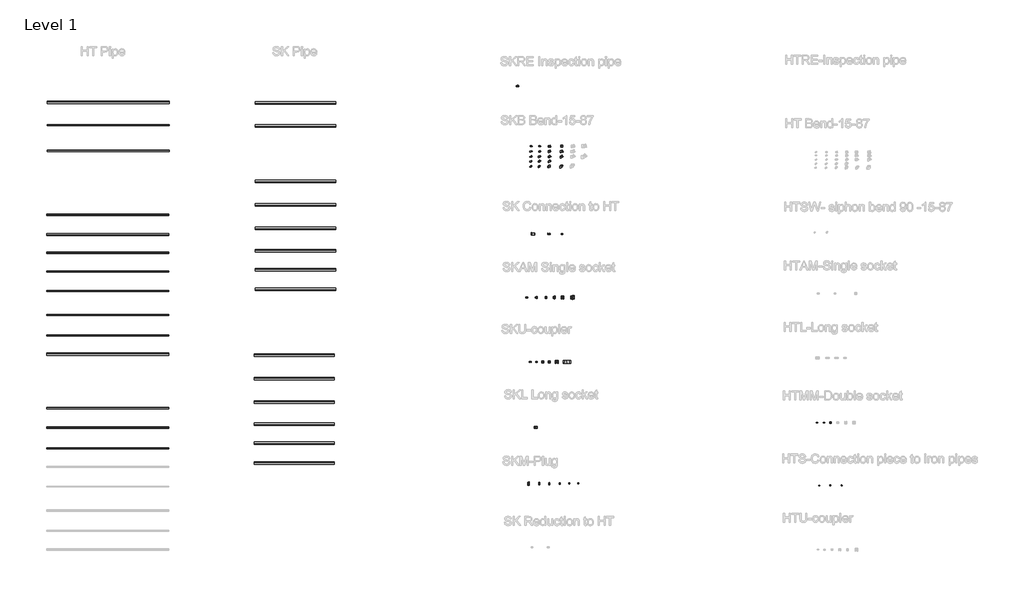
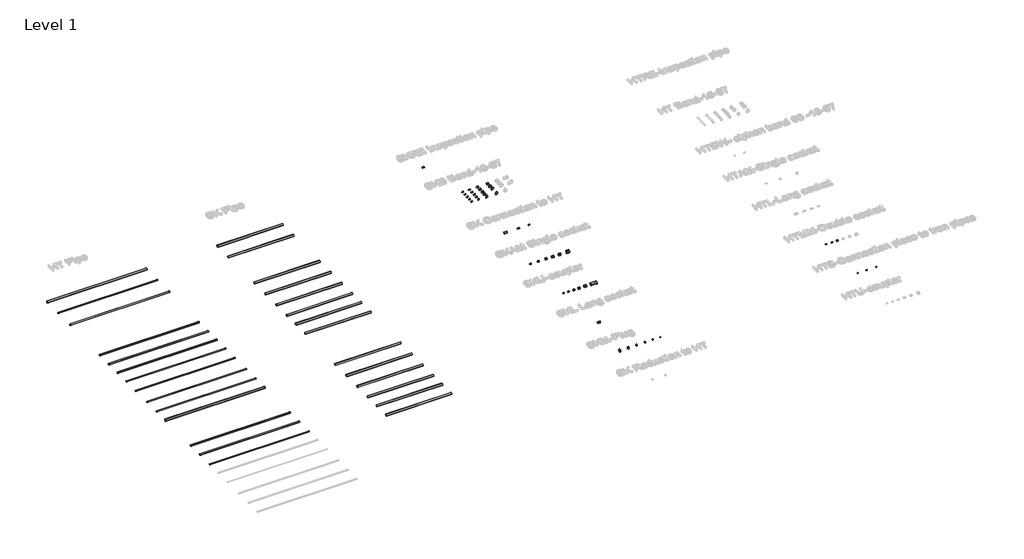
# One storey, part 2 of 29: 48 pipe fittings, 28 pipe segments.
"""IFC4 building model written with IfcOpenShell, lengths in millimetres."""

from ifc_helpers import new_model, si_unit, point, frame, frame_2d, origin, place, context, project, spatial, circle_curve, trimmed, segment, composite_curve, outline, extrude, transform, mapped, element, save
from components import pipe_fitting_97cefcbb, pipe_fitting_70d78208, pipe_fitting_3edb0472, pipe_fitting_0fadc552, pipe_fitting_c4610ebc, pipe_fitting_ba472d92, pipe_fitting_42c9a68a, pipe_fitting_5114909c, pipe_fitting_4f15ce90, pipe_fitting_d92faa6e, pipe_fitting_08ce48a5, pipe_fitting_f1652b02, pipe_fitting_9059359d, pipe_fitting_59a59377, pipe_fitting_3afc0ed2, pipe_fitting_7966021f, pipe_fitting_6bf98725, pipe_fitting_cee9e1e2, pipe_fitting_e52ff58d, pipe_fitting_2441ba4f, pipe_fitting_1ebebd56, pipe_fitting_a1ca4762, pipe_fitting_9b191db9, pipe_fitting_8de20daa, pipe_fitting_c5eb8bb2, pipe_fitting_2e757afb, pipe_fitting_46e309c2, pipe_fitting_6b5410aa, pipe_fitting_61a439ca, pipe_fitting_ea96c309, pipe_fitting_8957d1a8, pipe_fitting_1f33a7f4, pipe_fitting_3a01ebc7, pipe_fitting_8f561408, pipe_fitting_47bf5896, pipe_fitting_b53d4325, pipe_fitting_df833f15, pipe_fitting_8be27fc2, pipe_fitting_11ed9a3a, pipe_fitting_a771f2ab, pipe_fitting_0ddfdf04, pipe_fitting_d605dde8, pipe_fitting_faac6aaf, pipe_fitting_c86cb57a, pipe_fitting_fe7fcd8f, pipe_fitting_bae9c459, pipe_fitting_78887751, pipe_fitting_77622ff3

model = new_model("IFC4")

# Units and contexts
model_context = context("Model", 3, world=origin())
ifc_project = project(units=[si_unit("LENGTHUNIT", "METRE", prefix="MILLI")], contexts=[model_context])

# Site, building, storey
site = spatial("IfcSite", under=ifc_project)
building = spatial("IfcBuilding", under=site)
storey = spatial("IfcBuildingStorey", under=building, Name="Level 1", Elevation=0.0)

# Pipe fittings
placement = place(None, origin())
pipe_fitting_shape = pipe_fitting_97cefcbb(model_context)
element("IfcPipeFitting", 1, ObjectType="Superdrain SKL Long socket : Superdrain SKL Long socket", at=placement, inside=storey, context=model_context, shape_type="MappedRepresentation", body=[
    mapped(pipe_fitting_shape, transform((-2200.8096572, 5800.5406959, 0.0), x_axis=(1.0, 0.0, 0.0), y_axis=(0.0, 1.0, 0.0), z_axis=(0.0, 0.0, 1.0))),
])
pipe_fitting_2_shape = pipe_fitting_70d78208(model_context)
element("IfcPipeFitting", 2, ObjectType="Superdrain HTS-Connection piece to iron pipes : Superdrain HTS-Connection piece to iron pipes", at=placement, inside=storey, context=model_context, shape_type="MappedRepresentation", body=[
    mapped(pipe_fitting_2_shape, transform((17541.8986659, 1889.652324, 0.0), x_axis=(1.0, 0.0, 0.0), y_axis=(0.0, 1.0, 0.0), z_axis=(0.0, 0.0, 1.0))),
])
pipe_fitting_3_shape = pipe_fitting_3edb0472(model_context)
element("IfcPipeFitting", 3, ObjectType="Superdrain SK Connection to HT : Superdrain SK Connection to HT", at=placement, inside=storey, context=model_context, shape_type="MappedRepresentation", body=[
    mapped(pipe_fitting_3_shape, transform((-2399.8776508, 18813.449058, 0.0), x_axis=(1.0, 0.0, 0.0), y_axis=(0.0, 1.0, 0.0), z_axis=(0.0, 0.0, 1.0))),
])
pipe_fitting_4_shape = pipe_fitting_0fadc552(model_context)
element("IfcPipeFitting", 4, ObjectType="Superdrain SKRE Inspection pipe : Superdrain SKRE Inspection pipe _56", at=placement, inside=storey, context=model_context, shape_type="MappedRepresentation", body=[
    mapped(pipe_fitting_4_shape, transform((-3456.4739237, 28758.5634475, 0.0), x_axis=(1.0, 0.0, 0.0), y_axis=(0.0, 1.0, 0.0), z_axis=(0.0, 0.0, 1.0))),
])
pipe_fitting_5_shape = pipe_fitting_c4610ebc(model_context)
element("IfcPipeFitting", 5, ObjectType="Superdrain SKB Bend : Superdrain SKB Bend", at=placement, inside=storey, context=model_context, shape_type="MappedRepresentation", body=[
    mapped(pipe_fitting_5_shape, transform((-2551.9116196, 24709.074399, 0.0), x_axis=(1.0, 0.0, 0.0), y_axis=(0.0, 1.0, 0.0), z_axis=(0.0, 0.0, 1.0))),
])
pipe_fitting_6_shape = pipe_fitting_ba472d92(model_context)
element("IfcPipeFitting", 6, ObjectType="Superdrain SKB Bend : Superdrain SKB Bend", at=placement, inside=storey, context=model_context, shape_type="MappedRepresentation", body=[
    mapped(pipe_fitting_6_shape, transform((-1985.9920519, 24709.074399, 0.0), x_axis=(1.0, 0.0, 0.0), y_axis=(0.0, 1.0, 0.0), z_axis=(0.0, 0.0, 1.0))),
])
pipe_fitting_7_shape = pipe_fitting_42c9a68a(model_context)
element("IfcPipeFitting", 7, ObjectType="Superdrain SKB Bend : Superdrain SKB Bend", at=placement, inside=storey, context=model_context, shape_type="MappedRepresentation", body=[
    mapped(pipe_fitting_7_shape, transform((-2551.9116196, 24352.4698153, 0.0), x_axis=(1.0, 0.0, 0.0), y_axis=(0.0, 1.0, 0.0), z_axis=(0.0, 0.0, 1.0))),
])
pipe_fitting_8_shape = pipe_fitting_5114909c(model_context)
element("IfcPipeFitting", 8, ObjectType="Superdrain SKB Bend : Superdrain SKB Bend", at=placement, inside=storey, context=model_context, shape_type="MappedRepresentation", body=[
    mapped(pipe_fitting_8_shape, transform((-1985.9920519, 24352.4698153, 0.0), x_axis=(1.0, 0.0, 0.0), y_axis=(0.0, 1.0, 0.0), z_axis=(0.0, 0.0, 1.0))),
])
pipe_fitting_9_shape = pipe_fitting_4f15ce90(model_context)
element("IfcPipeFitting", 9, ObjectType="Superdrain SKB Bend : Superdrain SKB Bend", at=placement, inside=storey, context=model_context, shape_type="MappedRepresentation", body=[
    mapped(pipe_fitting_9_shape, transform((-2551.9116196, 23995.8652317, 0.0), x_axis=(1.0, 0.0, 0.0), y_axis=(0.0, 1.0, 0.0), z_axis=(0.0, 0.0, 1.0))),
])
pipe_fitting_10_shape = pipe_fitting_d92faa6e(model_context)
element("IfcPipeFitting", 10, ObjectType="Superdrain SKB Bend : Superdrain SKB Bend", at=placement, inside=storey, context=model_context, shape_type="MappedRepresentation", body=[
    mapped(pipe_fitting_10_shape, transform((-1985.9920519, 23995.8652317, 0.0), x_axis=(1.0, 0.0, 0.0), y_axis=(0.0, 1.0, 0.0), z_axis=(0.0, 0.0, 1.0))),
])
pipe_fitting_11_shape = pipe_fitting_08ce48a5(model_context)
element("IfcPipeFitting", 11, ObjectType="Superdrain SKB Bend : Superdrain SKB Bend", at=placement, inside=storey, context=model_context, shape_type="MappedRepresentation", body=[
    mapped(pipe_fitting_11_shape, transform((-2551.9116196, 23669.685075, 0.0), x_axis=(1.0, 0.0, 0.0), y_axis=(0.0, 1.0, 0.0), z_axis=(0.0, 0.0, 1.0))),
])
pipe_fitting_12_shape = pipe_fitting_f1652b02(model_context)
element("IfcPipeFitting", 12, ObjectType="Superdrain SKB Bend : Superdrain SKB Bend", at=placement, inside=storey, context=model_context, shape_type="MappedRepresentation", body=[
    mapped(pipe_fitting_12_shape, transform((-1985.9920519, 23669.685075, 0.0), x_axis=(1.0, 0.0, 0.0), y_axis=(0.0, 1.0, 0.0), z_axis=(0.0, 0.0, 1.0))),
])
pipe_fitting_13_shape = pipe_fitting_9059359d(model_context)
element("IfcPipeFitting", 13, ObjectType="Superdrain SKB Bend : Superdrain SKB Bend", at=placement, inside=storey, context=model_context, shape_type="MappedRepresentation", body=[
    mapped(pipe_fitting_13_shape, transform((-2551.9116196, 23322.0453883, 0.0), x_axis=(1.0, 0.0, 0.0), y_axis=(0.0, 1.0, 0.0), z_axis=(0.0, 0.0, 1.0))),
])
pipe_fitting_14_shape = pipe_fitting_59a59377(model_context)
element("IfcPipeFitting", 14, ObjectType="Superdrain SKB Bend : Superdrain SKB Bend", at=placement, inside=storey, context=model_context, shape_type="MappedRepresentation", body=[
    mapped(pipe_fitting_14_shape, transform((-1985.9920519, 23322.0453883, 0.0), x_axis=(1.0, 0.0, 0.0), y_axis=(0.0, 1.0, 0.0), z_axis=(0.0, 0.0, 1.0))),
])
pipe_fitting_15_shape = pipe_fitting_3afc0ed2(model_context)
element("IfcPipeFitting", 15, ObjectType="Superdrain SKB Bend : Superdrain SKB Bend", at=placement, inside=storey, context=model_context, shape_type="MappedRepresentation", body=[
    mapped(pipe_fitting_15_shape, transform((-1314.8706809, 24709.074399, 0.0), x_axis=(1.0, 0.0, 0.0), y_axis=(0.0, 1.0, 0.0), z_axis=(0.0, 0.0, 1.0))),
])
pipe_fitting_16_shape = pipe_fitting_7966021f(model_context)
element("IfcPipeFitting", 16, ObjectType="Superdrain SKB Bend : Superdrain SKB Bend", at=placement, inside=storey, context=model_context, shape_type="MappedRepresentation", body=[
    mapped(pipe_fitting_16_shape, transform((-1314.8706809, 24352.4698153, 0.0), x_axis=(1.0, 0.0, 0.0), y_axis=(0.0, 1.0, 0.0), z_axis=(0.0, 0.0, 1.0))),
])
pipe_fitting_17_shape = pipe_fitting_6bf98725(model_context)
element("IfcPipeFitting", 17, ObjectType="Superdrain SKB Bend : Superdrain SKB Bend", at=placement, inside=storey, context=model_context, shape_type="MappedRepresentation", body=[
    mapped(pipe_fitting_17_shape, transform((-1314.8706809, 23995.8652317, 0.0), x_axis=(1.0, 0.0, 0.0), y_axis=(0.0, 1.0, 0.0), z_axis=(0.0, 0.0, 1.0))),
])
pipe_fitting_18_shape = pipe_fitting_cee9e1e2(model_context)
element("IfcPipeFitting", 18, ObjectType="Superdrain SKB Bend : Superdrain SKB Bend", at=placement, inside=storey, context=model_context, shape_type="MappedRepresentation", body=[
    mapped(pipe_fitting_18_shape, transform((-1314.8706809, 23669.685075, 0.0), x_axis=(1.0, 0.0, 0.0), y_axis=(0.0, 1.0, 0.0), z_axis=(0.0, 0.0, 1.0))),
])
pipe_fitting_19_shape = pipe_fitting_e52ff58d(model_context)
element("IfcPipeFitting", 19, ObjectType="Superdrain SKB Bend : Superdrain SKB Bend", at=placement, inside=storey, context=model_context, shape_type="MappedRepresentation", body=[
    mapped(pipe_fitting_19_shape, transform((-1314.8706809, 23322.0453883, 0.0), x_axis=(1.0, 0.0, 0.0), y_axis=(0.0, 1.0, 0.0), z_axis=(0.0, 0.0, 1.0))),
])
pipe_fitting_20_shape = pipe_fitting_2441ba4f(model_context)
element("IfcPipeFitting", 20, ObjectType="Superdrain SKB Bend : Superdrain SKB Bend", at=placement, inside=storey, context=model_context, shape_type="MappedRepresentation", body=[
    mapped(pipe_fitting_20_shape, transform((-500.6322662, 24709.074399, 0.0), x_axis=(1.0, 0.0, 0.0), y_axis=(0.0, 1.0, 0.0), z_axis=(0.0, 0.0, 1.0))),
])
pipe_fitting_21_shape = pipe_fitting_1ebebd56(model_context)
element("IfcPipeFitting", 21, ObjectType="Superdrain SKB Bend : Superdrain SKB Bend", at=placement, inside=storey, context=model_context, shape_type="MappedRepresentation", body=[
    mapped(pipe_fitting_21_shape, transform((-500.6322662, 24352.4698153, 0.0), x_axis=(1.0, 0.0, 0.0), y_axis=(0.0, 1.0, 0.0), z_axis=(0.0, 0.0, 1.0))),
])
pipe_fitting_22_shape = pipe_fitting_a1ca4762(model_context)
element("IfcPipeFitting", 22, ObjectType="Superdrain SKB Bend : Superdrain SKB Bend", at=placement, inside=storey, context=model_context, shape_type="MappedRepresentation", body=[
    mapped(pipe_fitting_22_shape, transform((-500.6322662, 23995.8652317, 0.0), x_axis=(1.0, 0.0, 0.0), y_axis=(0.0, 1.0, 0.0), z_axis=(0.0, 0.0, 1.0))),
])
pipe_fitting_23_shape = pipe_fitting_9b191db9(model_context)
element("IfcPipeFitting", 23, ObjectType="Superdrain SKB Bend : Superdrain SKB Bend", at=placement, inside=storey, context=model_context, shape_type="MappedRepresentation", body=[
    mapped(pipe_fitting_23_shape, transform((-500.6322662, 23322.0453883, 0.0), x_axis=(1.0, 0.0, 0.0), y_axis=(0.0, 1.0, 0.0), z_axis=(0.0, 0.0, 1.0))),
])
pipe_fitting_24_shape = pipe_fitting_8de20daa(model_context)
element("IfcPipeFitting", 24, ObjectType="Superdrain SKAM Single socket : Superdrain SKAM Single socket", at=placement, inside=storey, context=model_context, shape_type="MappedRepresentation", body=[
    mapped(pipe_fitting_24_shape, transform((-2840.6757122, 14536.7917274, 0.0), x_axis=(1.0, 0.0, 0.0), y_axis=(0.0, 1.0, 0.0), z_axis=(0.0, 0.0, 1.0))),
])
pipe_fitting_25_shape = pipe_fitting_c5eb8bb2(model_context)
element("IfcPipeFitting", 25, ObjectType="Superdrain SKAM Single socket : Superdrain SKAM Single socket", at=placement, inside=storey, context=model_context, shape_type="MappedRepresentation", body=[
    mapped(pipe_fitting_25_shape, transform((-2203.2227387, 14536.7917274, 0.0), x_axis=(1.0, 0.0, 0.0), y_axis=(0.0, 1.0, 0.0), z_axis=(0.0, 0.0, 1.0))),
])
pipe_fitting_26_shape = pipe_fitting_2e757afb(model_context)
element("IfcPipeFitting", 26, ObjectType="Superdrain SKAM Single socket : Superdrain SKAM Single socket", at=placement, inside=storey, context=model_context, shape_type="MappedRepresentation", body=[
    mapped(pipe_fitting_26_shape, transform((-1549.1436808, 14536.7917274, 0.0), x_axis=(1.0, 0.0, 0.0), y_axis=(0.0, 1.0, 0.0), z_axis=(0.0, 0.0, 1.0))),
])
pipe_fitting_27_shape = pipe_fitting_46e309c2(model_context)
element("IfcPipeFitting", 27, ObjectType="Superdrain SKAM Single socket : Superdrain SKAM Single socket", at=placement, inside=storey, context=model_context, shape_type="MappedRepresentation", body=[
    mapped(pipe_fitting_27_shape, transform((-1008.5205916, 14536.7917274, 0.0), x_axis=(1.0, 0.0, 0.0), y_axis=(0.0, 1.0, 0.0), z_axis=(0.0, 0.0, 1.0))),
])
pipe_fitting_28_shape = pipe_fitting_6b5410aa(model_context)
element("IfcPipeFitting", 28, ObjectType="Superdrain SKAM Single socket : Superdrain SKAM Single socket", at=placement, inside=storey, context=model_context, shape_type="MappedRepresentation", body=[
    mapped(pipe_fitting_28_shape, transform((-450.6435741, 14536.7917274, 0.0), x_axis=(1.0, 0.0, 0.0), y_axis=(0.0, 1.0, 0.0), z_axis=(0.0, 0.0, 1.0))),
])
pipe_fitting_29_shape = pipe_fitting_61a439ca(model_context)
element("IfcPipeFitting", 29, ObjectType="Superdrain SKAM Single socket : Superdrain SKAM Single socket", at=placement, inside=storey, context=model_context, shape_type="MappedRepresentation", body=[
    mapped(pipe_fitting_29_shape, transform((241.9276732, 14536.7917274, 0.0), x_axis=(1.0, 0.0, 0.0), y_axis=(0.0, 1.0, 0.0), z_axis=(0.0, 0.0, 1.0))),
])
pipe_fitting_30_shape = pipe_fitting_ea96c309(model_context)
element("IfcPipeFitting", 30, ObjectType="Superdrain SKU-coupler : Superdrain SKU-coupler", at=placement, inside=storey, context=model_context, shape_type="MappedRepresentation", body=[
    mapped(pipe_fitting_30_shape, transform((-2606.7563139, 10215.3851194, 0.0), x_axis=(1.0, 0.0, 0.0), y_axis=(0.0, 1.0, 0.0), z_axis=(0.0, 0.0, 1.0))),
])
pipe_fitting_31_shape = pipe_fitting_8957d1a8(model_context)
element("IfcPipeFitting", 31, ObjectType="Superdrain SKU-coupler : Superdrain SKU-coupler", at=placement, inside=storey, context=model_context, shape_type="MappedRepresentation", body=[
    mapped(pipe_fitting_31_shape, transform((-141.6705568, 10201.2429838, 0.0), x_axis=(1.0, 0.0, 0.0), y_axis=(0.0, 1.0, 0.0), z_axis=(0.0, 0.0, 1.0))),
])
pipe_fitting_32_shape = pipe_fitting_1f33a7f4(model_context)
element("IfcPipeFitting", 32, ObjectType="Superdrain SKU-coupler : Superdrain SKU-coupler", at=placement, inside=storey, context=model_context, shape_type="MappedRepresentation", body=[
    mapped(pipe_fitting_32_shape, transform((-827.7185867, 10201.2429838, 0.0), x_axis=(1.0, 0.0, 0.0), y_axis=(0.0, 1.0, 0.0), z_axis=(0.0, 0.0, 1.0))),
])
pipe_fitting_33_shape = pipe_fitting_3a01ebc7(model_context)
element("IfcPipeFitting", 33, ObjectType="Superdrain SKU-coupler : Superdrain SKU-coupler", at=placement, inside=storey, context=model_context, shape_type="MappedRepresentation", body=[
    mapped(pipe_fitting_33_shape, transform((-1338.128374, 10201.2429838, 0.0), x_axis=(1.0, 0.0, 0.0), y_axis=(0.0, 1.0, 0.0), z_axis=(0.0, 0.0, 1.0))),
])
pipe_fitting_34_shape = pipe_fitting_8f561408(model_context)
element("IfcPipeFitting", 34, ObjectType="Superdrain SKU-coupler : Superdrain SKU-coupler", at=placement, inside=storey, context=model_context, shape_type="MappedRepresentation", body=[
    mapped(pipe_fitting_34_shape, transform((-1765.0041113, 10201.2429838, 0.0), x_axis=(1.0, 0.0, 0.0), y_axis=(0.0, 1.0, 0.0), z_axis=(0.0, 0.0, 1.0))),
])
pipe_fitting_35_shape = pipe_fitting_47bf5896(model_context)
element("IfcPipeFitting", 35, ObjectType="Superdrain SKU-coupler : Superdrain SKU-coupler", at=placement, inside=storey, context=model_context, shape_type="MappedRepresentation", body=[
    mapped(pipe_fitting_35_shape, transform((-2200.8984495, 10201.2429838, 0.0), x_axis=(1.0, 0.0, 0.0), y_axis=(0.0, 1.0, 0.0), z_axis=(0.0, 0.0, 1.0))),
])
pipe_fitting_36_shape = pipe_fitting_b53d4325(model_context)
element("IfcPipeFitting", 36, ObjectType="Superdrain HTMM-Double socket : Superdrain HTMM-Double socket", at=placement, inside=storey, context=model_context, shape_type="MappedRepresentation", body=[
    mapped(pipe_fitting_36_shape, transform((16659.8272116, 6113.6610392, 0.0), x_axis=(1.0, 0.0, 0.0), y_axis=(0.0, 1.0, 0.0), z_axis=(0.0, 0.0, 1.0))),
])
pipe_fitting_37_shape = pipe_fitting_df833f15(model_context)
element("IfcPipeFitting", 37, ObjectType="Superdrain HTMM-Double socket : Superdrain HTMM-Double socket", at=placement, inside=storey, context=model_context, shape_type="MappedRepresentation", body=[
    mapped(pipe_fitting_37_shape, transform((17580.8588953, 6113.6610392, 0.0), x_axis=(1.0, 0.0, 0.0), y_axis=(0.0, 1.0, 0.0), z_axis=(0.0, 0.0, 1.0))),
])
pipe_fitting_38_shape = pipe_fitting_8be27fc2(model_context)
element("IfcPipeFitting", 38, ObjectType="Superdrain SKM-Plug : Superdrain SKM-Plug", at=placement, inside=storey, context=model_context, shape_type="MappedRepresentation", body=[
    mapped(pipe_fitting_38_shape, transform((-2763.7633358, 2011.4975834, 0.0), x_axis=(1.0, 0.0, 0.0), y_axis=(0.0, 1.0, 0.0), z_axis=(0.0, 0.0, 1.0))),
])
pipe_fitting_39_shape = pipe_fitting_11ed9a3a(model_context)
element("IfcPipeFitting", 39, ObjectType="Superdrain SKM-Plug : Superdrain SKM-Plug", at=placement, inside=storey, context=model_context, shape_type="MappedRepresentation", body=[
    mapped(pipe_fitting_39_shape, transform((-2043.7633358, 2011.4975834, 0.0), x_axis=(1.0, 0.0, 0.0), y_axis=(0.0, 1.0, 0.0), z_axis=(0.0, 0.0, 1.0))),
])
pipe_fitting_40_shape = pipe_fitting_a771f2ab(model_context)
element("IfcPipeFitting", 40, ObjectType="Superdrain SKM-Plug : Superdrain SKM-Plug", at=placement, inside=storey, context=model_context, shape_type="MappedRepresentation", body=[
    mapped(pipe_fitting_40_shape, transform((-1363.7633358, 2011.4975834, 0.0), x_axis=(1.0, 0.0, 0.0), y_axis=(0.0, 1.0, 0.0), z_axis=(0.0, 0.0, 1.0))),
])
pipe_fitting_41_shape = pipe_fitting_0ddfdf04(model_context)
element("IfcPipeFitting", 41, ObjectType="Superdrain SKM-Plug : Superdrain SKM-Plug", at=placement, inside=storey, context=model_context, shape_type="MappedRepresentation", body=[
    mapped(pipe_fitting_41_shape, transform((-663.7633358, 2011.4975834, 0.0), x_axis=(1.0, 0.0, 0.0), y_axis=(0.0, 1.0, 0.0), z_axis=(0.0, 0.0, 1.0))),
])
pipe_fitting_42_shape = pipe_fitting_d605dde8(model_context)
element("IfcPipeFitting", 42, ObjectType="Superdrain SKM-Plug : Superdrain SKM-Plug", at=placement, inside=storey, context=model_context, shape_type="MappedRepresentation", body=[
    mapped(pipe_fitting_42_shape, transform((-21.3417547, 2025.2717365, 0.0), x_axis=(1.0, 0.0, 0.0), y_axis=(0.0, 1.0, 0.0), z_axis=(0.0, 0.0, 1.0))),
])
pipe_fitting_43_shape = pipe_fitting_faac6aaf(model_context)
element("IfcPipeFitting", 43, ObjectType="Superdrain SKM-Plug : Superdrain SKM-Plug", at=placement, inside=storey, context=model_context, shape_type="MappedRepresentation", body=[
    mapped(pipe_fitting_43_shape, transform((598.6582453, 2025.2717365, 0.0), x_axis=(1.0, 0.0, 0.0), y_axis=(0.0, 1.0, 0.0), z_axis=(0.0, 0.0, 1.0))),
])
pipe_fitting_44_shape = pipe_fitting_c86cb57a(model_context)
element("IfcPipeFitting", 44, ObjectType="Superdrain HTS-Connection piece to iron pipes : Superdrain HTS-Connection piece to iron pipes", at=placement, inside=storey, context=model_context, shape_type="MappedRepresentation", body=[
    mapped(pipe_fitting_44_shape, transform((16805.2864942, 1889.652324, 0.0), x_axis=(1.0, 0.0, 0.0), y_axis=(0.0, 1.0, 0.0), z_axis=(0.0, 0.0, 1.0))),
])
pipe_fitting_45_shape = pipe_fitting_fe7fcd8f(model_context)
element("IfcPipeFitting", 45, ObjectType="Superdrain HTS-Connection piece to iron pipes : Superdrain HTS-Connection piece to iron pipes", at=placement, inside=storey, context=model_context, shape_type="MappedRepresentation", body=[
    mapped(pipe_fitting_45_shape, transform((18326.5580023, 1889.652324, 0.0), x_axis=(1.0, 0.0, 0.0), y_axis=(0.0, 1.0, 0.0), z_axis=(0.0, 0.0, 1.0))),
])
pipe_fitting_46_shape = pipe_fitting_bae9c459(model_context)
element("IfcPipeFitting", 46, ObjectType="Superdrain SK Connection to HT : Superdrain SK Connection to HT", at=placement, inside=storey, context=model_context, shape_type="MappedRepresentation", body=[
    mapped(pipe_fitting_46_shape, transform((-1342.9922535, 18813.449058, 0.0), x_axis=(1.0, 0.0, 0.0), y_axis=(0.0, 1.0, 0.0), z_axis=(0.0, 0.0, 1.0))),
])
pipe_fitting_47_shape = pipe_fitting_78887751(model_context)
element("IfcPipeFitting", 47, ObjectType="Superdrain SK Connection to HT : Superdrain SK Connection to HT", at=placement, inside=storey, context=model_context, shape_type="MappedRepresentation", body=[
    mapped(pipe_fitting_47_shape, transform((-460.753982, 18813.449058, 0.0), x_axis=(1.0, 0.0, 0.0), y_axis=(0.0, 1.0, 0.0), z_axis=(0.0, 0.0, 1.0))),
])
pipe_fitting_48_shape = pipe_fitting_77622ff3(model_context)
element("IfcPipeFitting", 48, ObjectType="Superdrain HTMM-Double socket : Superdrain HTMM-Double socket", at=placement, inside=storey, context=model_context, shape_type="MappedRepresentation", body=[
    mapped(pipe_fitting_48_shape, transform((17140.8093691, 6113.6610392, 0.0), x_axis=(1.0, 0.0, 0.0), y_axis=(0.0, 1.0, 0.0), z_axis=(0.0, 0.0, 1.0))),
])

# Pipe segments
element("IfcPipeSegment", 49, ObjectType="Superdrain HT_ Double socket", at=placement, inside=storey, context=model_context, shape_type="SweptSolid", body=[
    extrude(outline(composite_curve([segment(trimmed(circle_curve(frame_2d((24401.0738305, 0.0)), 62.5), [point((24338.5738305, 0.0))], [point((24401.0738305, 62.5))], False, "CARTESIAN"), True, "CONTINUOUS"), segment(trimmed(circle_curve(frame_2d((24401.0738305, 0.0)), 62.5), [point((24401.0738305, 62.5))], [point((24463.5738305, 0.0))], False, "CARTESIAN"), True, "CONTINUOUS"), segment(trimmed(circle_curve(frame_2d((24401.0738305, 0.0)), 62.5), [point((24463.5738305, 0.0))], [point((24401.0738305, -62.5))], False, "CARTESIAN"), True, "CONTINUOUS"), segment(trimmed(circle_curve(frame_2d((24401.0738305, 0.0)), 62.5), [point((24401.0738305, -62.5))], [point((24338.5738305, 0.0))], False, "CARTESIAN"), True, "CONTINUOUS")], self_intersect=False)), frame((-35063.6570842, 0.0, 0.0), z_axis=(1.0, 0.0, 0.0), x_axis=(0.0, 1.0, 0.0)), (0.0, 0.0, 1.0), 8200.0),
])
element("IfcPipeSegment", 50, ObjectType="Superdrain HT_ Single socket", at=placement, inside=storey, context=model_context, shape_type="SweptSolid", body=[
    extrude(outline(composite_curve([segment(trimmed(circle_curve(frame_2d((26121.8702032, 0.0)), 37.5), [point((26084.3702032, 0.0))], [point((26121.8702032, 37.5))], False, "CARTESIAN"), True, "CONTINUOUS"), segment(trimmed(circle_curve(frame_2d((26121.8702032, 0.0)), 37.5), [point((26121.8702032, 37.5))], [point((26159.3702032, 0.0))], False, "CARTESIAN"), True, "CONTINUOUS"), segment(trimmed(circle_curve(frame_2d((26121.8702032, 0.0)), 37.5), [point((26159.3702032, 0.0))], [point((26121.8702032, -37.5))], False, "CARTESIAN"), True, "CONTINUOUS"), segment(trimmed(circle_curve(frame_2d((26121.8702032, 0.0)), 37.5), [point((26121.8702032, -37.5))], [point((26084.3702032, 0.0))], False, "CARTESIAN"), True, "CONTINUOUS")], self_intersect=False)), frame((-35063.6570842, 0.0, 0.0), z_axis=(1.0, 0.0, 0.0), x_axis=(0.0, 1.0, 0.0)), (0.0, 0.0, 1.0), 8200.0),
])
element("IfcPipeSegment", 51, ObjectType="Superdrain HT_ Plain ended", at=placement, inside=storey, context=model_context, shape_type="SweptSolid", body=[
    extrude(outline(composite_curve([segment(trimmed(circle_curve(frame_2d((27666.5108195, 0.0)), 80.0), [point((27586.5108195, 0.0))], [point((27666.5108195, 80.0))], False, "CARTESIAN"), True, "CONTINUOUS"), segment(trimmed(circle_curve(frame_2d((27666.5108195, 0.0)), 80.0), [point((27666.5108195, 80.0))], [point((27746.5108195, 0.0))], False, "CARTESIAN"), True, "CONTINUOUS"), segment(trimmed(circle_curve(frame_2d((27666.5108195, 0.0)), 80.0), [point((27746.5108195, 0.0))], [point((27666.5108195, -80.0))], False, "CARTESIAN"), True, "CONTINUOUS"), segment(trimmed(circle_curve(frame_2d((27666.5108195, 0.0)), 80.0), [point((27666.5108195, -80.0))], [point((27586.5108195, 0.0))], False, "CARTESIAN"), True, "CONTINUOUS")], self_intersect=False)), frame((-35063.6570842, 0.0, 0.0), z_axis=(1.0, 0.0, 0.0), x_axis=(0.0, 1.0, 0.0)), (0.0, 0.0, 1.0), 8200.0),
])
element("IfcPipeSegment", 52, ObjectType="Superdrain Single socket pipe HTEM - 150 mm", at=placement, inside=storey, context=model_context, shape_type="SweptSolid", body=[
    extrude(outline(composite_curve([segment(trimmed(circle_curve(frame_2d((20096.7811014, 0.0)), 55.0), [point((20041.7811014, 0.0))], [point((20096.7811014, 55.0))], False, "CARTESIAN"), True, "CONTINUOUS"), segment(trimmed(circle_curve(frame_2d((20096.7811014, 0.0)), 55.0), [point((20096.7811014, 55.0))], [point((20151.7811014, 0.0))], False, "CARTESIAN"), True, "CONTINUOUS"), segment(trimmed(circle_curve(frame_2d((20096.7811014, 0.0)), 55.0), [point((20151.7811014, 0.0))], [point((20096.7811014, -55.0))], False, "CARTESIAN"), True, "CONTINUOUS"), segment(trimmed(circle_curve(frame_2d((20096.7811014, 0.0)), 55.0), [point((20096.7811014, -55.0))], [point((20041.7811014, 0.0))], False, "CARTESIAN"), True, "CONTINUOUS")], self_intersect=False)), frame((-35123.6590069, 0.0, 0.0), z_axis=(1.0, 0.0, 0.0), x_axis=(0.0, 1.0, 0.0)), (0.0, 0.0, 1.0), 8200.0),
])
element("IfcPipeSegment", 53, ObjectType="Superdrain SK_Plain end pipe", at=placement, inside=storey, context=model_context, shape_type="SweptSolid", body=[
    extrude(outline(composite_curve([segment(trimmed(circle_curve(frame_2d((27620.0800705, 0.0)), 80.0), [point((27540.0800705, 0.0))], [point((27620.0800705, 80.0))], False, "CARTESIAN"), True, "CONTINUOUS"), segment(trimmed(circle_curve(frame_2d((27620.0800705, 0.0)), 80.0), [point((27620.0800705, 80.0))], [point((27700.0800705, 0.0))], False, "CARTESIAN"), True, "CONTINUOUS"), segment(trimmed(circle_curve(frame_2d((27620.0800705, 0.0)), 80.0), [point((27700.0800705, 0.0))], [point((27620.0800705, -80.0))], False, "CARTESIAN"), True, "CONTINUOUS"), segment(trimmed(circle_curve(frame_2d((27620.0800705, 0.0)), 80.0), [point((27620.0800705, -80.0))], [point((27540.0800705, 0.0))], False, "CARTESIAN"), True, "CONTINUOUS")], self_intersect=False)), frame((-21083.2945748, 0.0, 0.0), z_axis=(1.0, 0.0, 0.0), x_axis=(0.0, 1.0, 0.0)), (0.0, 0.0, 1.0), 5400.0),
])
element("IfcPipeSegment", 54, ObjectType="Superdrain SK_Single socket pipe", at=placement, inside=storey, context=model_context, shape_type="SweptSolid", body=[
    extrude(outline(composite_curve([segment(trimmed(circle_curve(frame_2d((26075.4394542, 0.0)), 80.0), [point((25995.4394542, 0.0))], [point((26075.4394542, 80.0))], False, "CARTESIAN"), True, "CONTINUOUS"), segment(trimmed(circle_curve(frame_2d((26075.4394542, 0.0)), 80.0), [point((26075.4394542, 80.0))], [point((26155.4394542, 0.0))], False, "CARTESIAN"), True, "CONTINUOUS"), segment(trimmed(circle_curve(frame_2d((26075.4394542, 0.0)), 80.0), [point((26155.4394542, 0.0))], [point((26075.4394542, -80.0))], False, "CARTESIAN"), True, "CONTINUOUS"), segment(trimmed(circle_curve(frame_2d((26075.4394542, 0.0)), 80.0), [point((26075.4394542, -80.0))], [point((25995.4394542, 0.0))], False, "CARTESIAN"), True, "CONTINUOUS")], self_intersect=False)), frame((-21083.2945748, 0.0, 0.0), z_axis=(1.0, 0.0, 0.0), x_axis=(0.0, 1.0, 0.0)), (0.0, 0.0, 1.0), 5400.0),
])
element("IfcPipeSegment", 55, ObjectType="Superdrain Plain ended pipe SK,150 mm", at=placement, inside=storey, context=model_context, shape_type="SweptSolid", body=[
    extrude(outline(composite_curve([segment(trimmed(circle_curve(frame_2d((22341.3586574, 0.0)), 80.0), [point((22261.3586574, 0.0))], [point((22341.3586574, 80.0))], False, "CARTESIAN"), True, "CONTINUOUS"), segment(trimmed(circle_curve(frame_2d((22341.3586574, 0.0)), 80.0), [point((22341.3586574, 80.0))], [point((22421.3586574, 0.0))], False, "CARTESIAN"), True, "CONTINUOUS"), segment(trimmed(circle_curve(frame_2d((22341.3586574, 0.0)), 80.0), [point((22421.3586574, 0.0))], [point((22341.3586574, -80.0))], False, "CARTESIAN"), True, "CONTINUOUS"), segment(trimmed(circle_curve(frame_2d((22341.3586574, 0.0)), 80.0), [point((22341.3586574, -80.0))], [point((22261.3586574, 0.0))], False, "CARTESIAN"), True, "CONTINUOUS")], self_intersect=False)), frame((-21083.2945748, 0.0, 0.0), z_axis=(1.0, 0.0, 0.0), x_axis=(0.0, 1.0, 0.0)), (0.0, 0.0, 1.0), 5400.0),
])
element("IfcPipeSegment", 56, ObjectType="Superdrain Plain ended pipe SK,250 mm", at=placement, inside=storey, context=model_context, shape_type="SweptSolid", body=[
    extrude(outline(composite_curve([segment(trimmed(circle_curve(frame_2d((20759.6142491, 0.0)), 80.0), [point((20679.6142491, 0.0))], [point((20759.6142491, 80.0))], False, "CARTESIAN"), True, "CONTINUOUS"), segment(trimmed(circle_curve(frame_2d((20759.6142491, 0.0)), 80.0), [point((20759.6142491, 80.0))], [point((20839.6142491, 0.0))], False, "CARTESIAN"), True, "CONTINUOUS"), segment(trimmed(circle_curve(frame_2d((20759.6142491, 0.0)), 80.0), [point((20839.6142491, 0.0))], [point((20759.6142491, -80.0))], False, "CARTESIAN"), True, "CONTINUOUS"), segment(trimmed(circle_curve(frame_2d((20759.6142491, 0.0)), 80.0), [point((20759.6142491, -80.0))], [point((20679.6142491, 0.0))], False, "CARTESIAN"), True, "CONTINUOUS")], self_intersect=False)), frame((-21083.2945748, 0.0, 0.0), z_axis=(1.0, 0.0, 0.0), x_axis=(0.0, 1.0, 0.0)), (0.0, 0.0, 1.0), 5400.0),
])
element("IfcPipeSegment", 57, ObjectType="Superdrain Plain ended pipe SK,500 mm", at=placement, inside=storey, context=model_context, shape_type="SweptSolid", body=[
    extrude(outline(composite_curve([segment(trimmed(circle_curve(frame_2d((19183.0433038, 0.0)), 80.0), [point((19103.0433038, 0.0))], [point((19183.0433038, 80.0))], False, "CARTESIAN"), True, "CONTINUOUS"), segment(trimmed(circle_curve(frame_2d((19183.0433038, 0.0)), 80.0), [point((19183.0433038, 80.0))], [point((19263.0433038, 0.0))], False, "CARTESIAN"), True, "CONTINUOUS"), segment(trimmed(circle_curve(frame_2d((19183.0433038, 0.0)), 80.0), [point((19263.0433038, 0.0))], [point((19183.0433038, -80.0))], False, "CARTESIAN"), True, "CONTINUOUS"), segment(trimmed(circle_curve(frame_2d((19183.0433038, 0.0)), 80.0), [point((19183.0433038, -80.0))], [point((19103.0433038, 0.0))], False, "CARTESIAN"), True, "CONTINUOUS")], self_intersect=False)), frame((-21083.2945748, 0.0, 0.0), z_axis=(1.0, 0.0, 0.0), x_axis=(0.0, 1.0, 0.0)), (0.0, 0.0, 1.0), 5400.0),
])
element("IfcPipeSegment", 58, ObjectType="Superdrain Plain ended pipe SK,1000 mm", at=placement, inside=storey, context=model_context, shape_type="SweptSolid", body=[
    extrude(outline(composite_curve([segment(trimmed(circle_curve(frame_2d((17689.3710231, 0.0)), 80.0), [point((17609.3710231, 0.0))], [point((17689.3710231, 80.0))], False, "CARTESIAN"), True, "CONTINUOUS"), segment(trimmed(circle_curve(frame_2d((17689.3710231, 0.0)), 80.0), [point((17689.3710231, 80.0))], [point((17769.3710231, 0.0))], False, "CARTESIAN"), True, "CONTINUOUS"), segment(trimmed(circle_curve(frame_2d((17689.3710231, 0.0)), 80.0), [point((17769.3710231, 0.0))], [point((17689.3710231, -80.0))], False, "CARTESIAN"), True, "CONTINUOUS"), segment(trimmed(circle_curve(frame_2d((17689.3710231, 0.0)), 80.0), [point((17689.3710231, -80.0))], [point((17609.3710231, 0.0))], False, "CARTESIAN"), True, "CONTINUOUS")], self_intersect=False)), frame((-21083.2945748, 0.0, 0.0), z_axis=(1.0, 0.0, 0.0), x_axis=(0.0, 1.0, 0.0)), (0.0, 0.0, 1.0), 5400.0),
])
element("IfcPipeSegment", 59, ObjectType="Superdrain Plain ended pipe SK,3000 mm", at=placement, inside=storey, context=model_context, shape_type="SweptSolid", body=[
    extrude(outline(composite_curve([segment(trimmed(circle_curve(frame_2d((15079.5079521, 0.0)), 80.0), [point((14999.5079521, 0.0))], [point((15079.5079521, 80.0))], False, "CARTESIAN"), True, "CONTINUOUS"), segment(trimmed(circle_curve(frame_2d((15079.5079521, 0.0)), 80.0), [point((15079.5079521, 80.0))], [point((15159.5079521, 0.0))], False, "CARTESIAN"), True, "CONTINUOUS"), segment(trimmed(circle_curve(frame_2d((15079.5079521, 0.0)), 80.0), [point((15159.5079521, 0.0))], [point((15079.5079521, -80.0))], False, "CARTESIAN"), True, "CONTINUOUS"), segment(trimmed(circle_curve(frame_2d((15079.5079521, 0.0)), 80.0), [point((15079.5079521, -80.0))], [point((14999.5079521, 0.0))], False, "CARTESIAN"), True, "CONTINUOUS")], self_intersect=False)), frame((-21083.2945748, 0.0, 0.0), z_axis=(1.0, 0.0, 0.0), x_axis=(0.0, 1.0, 0.0)), (0.0, 0.0, 1.0), 5400.0),
])
element("IfcPipeSegment", 60, ObjectType="Superdrain Plain ended pipe SK,2000 mm", at=placement, inside=storey, context=model_context, shape_type="SweptSolid", body=[
    extrude(outline(composite_curve([segment(trimmed(circle_curve(frame_2d((16412.7957389, 0.0)), 80.0), [point((16332.7957389, 0.0))], [point((16412.7957389, 80.0))], False, "CARTESIAN"), True, "CONTINUOUS"), segment(trimmed(circle_curve(frame_2d((16412.7957389, 0.0)), 80.0), [point((16412.7957389, 80.0))], [point((16492.7957389, 0.0))], False, "CARTESIAN"), True, "CONTINUOUS"), segment(trimmed(circle_curve(frame_2d((16412.7957389, 0.0)), 80.0), [point((16492.7957389, 0.0))], [point((16412.7957389, -80.0))], False, "CARTESIAN"), True, "CONTINUOUS"), segment(trimmed(circle_curve(frame_2d((16412.7957389, 0.0)), 80.0), [point((16412.7957389, -80.0))], [point((16332.7957389, 0.0))], False, "CARTESIAN"), True, "CONTINUOUS")], self_intersect=False)), frame((-21083.2945748, 0.0, 0.0), z_axis=(1.0, 0.0, 0.0), x_axis=(0.0, 1.0, 0.0)), (0.0, 0.0, 1.0), 5400.0),
])
element("IfcPipeSegment", 61, ObjectType="Superdrain Single socket pipe HTEM - 250 mm", at=placement, inside=storey, context=model_context, shape_type="SweptSolid", body=[
    extrude(outline(composite_curve([segment(trimmed(circle_curve(frame_2d((18774.6251323, 0.0)), 55.0), [point((18719.6251323, 0.0))], [point((18774.6251323, 55.0))], False, "CARTESIAN"), True, "CONTINUOUS"), segment(trimmed(circle_curve(frame_2d((18774.6251323, 0.0)), 55.0), [point((18774.6251323, 55.0))], [point((18829.6251323, 0.0))], False, "CARTESIAN"), True, "CONTINUOUS"), segment(trimmed(circle_curve(frame_2d((18774.6251323, 0.0)), 55.0), [point((18829.6251323, 0.0))], [point((18774.6251323, -55.0))], False, "CARTESIAN"), True, "CONTINUOUS"), segment(trimmed(circle_curve(frame_2d((18774.6251323, 0.0)), 55.0), [point((18774.6251323, -55.0))], [point((18719.6251323, 0.0))], False, "CARTESIAN"), True, "CONTINUOUS")], self_intersect=False)), frame((-35123.6590069, 0.0, 0.0), z_axis=(1.0, 0.0, 0.0), x_axis=(0.0, 1.0, 0.0)), (0.0, 0.0, 1.0), 8200.0),
])
element("IfcPipeSegment", 62, ObjectType="Superdrain Single socket pipe HTEM - 750 mm", at=placement, inside=storey, context=model_context, shape_type="SweptSolid", body=[
    extrude(outline(composite_curve([segment(trimmed(circle_curve(frame_2d((16279.4429715, 0.0)), 37.5), [point((16241.9429715, 0.0))], [point((16279.4429715, 37.5))], False, "CARTESIAN"), True, "CONTINUOUS"), segment(trimmed(circle_curve(frame_2d((16279.4429715, 0.0)), 37.5), [point((16279.4429715, 37.5))], [point((16316.9429715, 0.0))], False, "CARTESIAN"), True, "CONTINUOUS"), segment(trimmed(circle_curve(frame_2d((16279.4429715, 0.0)), 37.5), [point((16316.9429715, 0.0))], [point((16279.4429715, -37.5))], False, "CARTESIAN"), True, "CONTINUOUS"), segment(trimmed(circle_curve(frame_2d((16279.4429715, 0.0)), 37.5), [point((16279.4429715, -37.5))], [point((16241.9429715, 0.0))], False, "CARTESIAN"), True, "CONTINUOUS")], self_intersect=False)), frame((-35123.6590069, 0.0, 0.0), z_axis=(1.0, 0.0, 0.0), x_axis=(0.0, 1.0, 0.0)), (0.0, 0.0, 1.0), 8200.0),
])
element("IfcPipeSegment", 63, ObjectType="Superdrain Single socket pipe HTEM - 1000 mm", at=placement, inside=storey, context=model_context, shape_type="SweptSolid", body=[
    extrude(outline(composite_curve([segment(trimmed(circle_curve(frame_2d((14961.507301, 0.0)), 37.5), [point((14924.007301, 0.0))], [point((14961.507301, 37.5))], False, "CARTESIAN"), True, "CONTINUOUS"), segment(trimmed(circle_curve(frame_2d((14961.507301, 0.0)), 37.5), [point((14961.507301, 37.5))], [point((14999.007301, 0.0))], False, "CARTESIAN"), True, "CONTINUOUS"), segment(trimmed(circle_curve(frame_2d((14961.507301, 0.0)), 37.5), [point((14999.007301, 0.0))], [point((14961.507301, -37.5))], False, "CARTESIAN"), True, "CONTINUOUS"), segment(trimmed(circle_curve(frame_2d((14961.507301, 0.0)), 37.5), [point((14961.507301, -37.5))], [point((14924.007301, 0.0))], False, "CARTESIAN"), True, "CONTINUOUS")], self_intersect=False)), frame((-35123.6590069, 0.0, 0.0), z_axis=(1.0, 0.0, 0.0), x_axis=(0.0, 1.0, 0.0)), (0.0, 0.0, 1.0), 8200.0),
])
element("IfcPipeSegment", 64, ObjectType="Superdrain Single socket pipe HTEM - 1500 mm", at=placement, inside=storey, context=model_context, shape_type="SweptSolid", body=[
    extrude(outline(composite_curve([segment(trimmed(circle_curve(frame_2d((13346.9286004, 0.0)), 37.5), [point((13309.4286004, 0.0))], [point((13346.9286004, 37.5))], False, "CARTESIAN"), True, "CONTINUOUS"), segment(trimmed(circle_curve(frame_2d((13346.9286004, 0.0)), 37.5), [point((13346.9286004, 37.5))], [point((13384.4286004, 0.0))], False, "CARTESIAN"), True, "CONTINUOUS"), segment(trimmed(circle_curve(frame_2d((13346.9286004, 0.0)), 37.5), [point((13384.4286004, 0.0))], [point((13346.9286004, -37.5))], False, "CARTESIAN"), True, "CONTINUOUS"), segment(trimmed(circle_curve(frame_2d((13346.9286004, 0.0)), 37.5), [point((13346.9286004, -37.5))], [point((13309.4286004, 0.0))], False, "CARTESIAN"), True, "CONTINUOUS")], self_intersect=False)), frame((-35123.6590069, 0.0, 0.0), z_axis=(1.0, 0.0, 0.0), x_axis=(0.0, 1.0, 0.0)), (0.0, 0.0, 1.0), 8200.0),
])
element("IfcPipeSegment", 65, ObjectType="Superdrain Single socket pipe HTEM - 2000 mm", at=placement, inside=storey, context=model_context, shape_type="SweptSolid", body=[
    extrude(outline(composite_curve([segment(trimmed(circle_curve(frame_2d((11990.6407038, 0.0)), 37.5), [point((11953.1407038, 0.0))], [point((11990.6407038, 37.5))], False, "CARTESIAN"), True, "CONTINUOUS"), segment(trimmed(circle_curve(frame_2d((11990.6407038, 0.0)), 37.5), [point((11990.6407038, 37.5))], [point((12028.1407038, 0.0))], False, "CARTESIAN"), True, "CONTINUOUS"), segment(trimmed(circle_curve(frame_2d((11990.6407038, 0.0)), 37.5), [point((12028.1407038, 0.0))], [point((11990.6407038, -37.5))], False, "CARTESIAN"), True, "CONTINUOUS"), segment(trimmed(circle_curve(frame_2d((11990.6407038, 0.0)), 37.5), [point((11990.6407038, -37.5))], [point((11953.1407038, 0.0))], False, "CARTESIAN"), True, "CONTINUOUS")], self_intersect=False)), frame((-35123.6590069, 0.0, 0.0), z_axis=(1.0, 0.0, 0.0), x_axis=(0.0, 1.0, 0.0)), (0.0, 0.0, 1.0), 8200.0),
])
element("IfcPipeSegment", 66, ObjectType="Superdrain Single socket pipe HTEM - 3000 mm", at=placement, inside=storey, context=model_context, shape_type="SweptSolid", body=[
    extrude(outline(composite_curve([segment(trimmed(circle_curve(frame_2d((10727.954574, 0.0)), 80.0), [point((10647.954574, 0.0))], [point((10727.954574, 80.0))], False, "CARTESIAN"), True, "CONTINUOUS"), segment(trimmed(circle_curve(frame_2d((10727.954574, 0.0)), 80.0), [point((10727.954574, 80.0))], [point((10807.954574, 0.0))], False, "CARTESIAN"), True, "CONTINUOUS"), segment(trimmed(circle_curve(frame_2d((10727.954574, 0.0)), 80.0), [point((10807.954574, 0.0))], [point((10727.954574, -80.0))], False, "CARTESIAN"), True, "CONTINUOUS"), segment(trimmed(circle_curve(frame_2d((10727.954574, 0.0)), 80.0), [point((10727.954574, -80.0))], [point((10647.954574, 0.0))], False, "CARTESIAN"), True, "CONTINUOUS")], self_intersect=False)), frame((-35123.6590069, 0.0, 0.0), z_axis=(1.0, 0.0, 0.0), x_axis=(0.0, 1.0, 0.0)), (0.0, 0.0, 1.0), 8200.0),
])
element("IfcPipeSegment", 67, ObjectType="Superdrain Double socket pipe HTEM - 150 mm", at=placement, inside=storey, context=model_context, shape_type="SweptSolid", body=[
    extrude(outline(composite_curve([segment(trimmed(circle_curve(frame_2d((7096.7811014, 0.0)), 55.0), [point((7041.7811014, 0.0))], [point((7096.7811014, 55.0))], False, "CARTESIAN"), True, "CONTINUOUS"), segment(trimmed(circle_curve(frame_2d((7096.7811014, 0.0)), 55.0), [point((7096.7811014, 55.0))], [point((7151.7811014, 0.0))], False, "CARTESIAN"), True, "CONTINUOUS"), segment(trimmed(circle_curve(frame_2d((7096.7811014, 0.0)), 55.0), [point((7151.7811014, 0.0))], [point((7096.7811014, -55.0))], False, "CARTESIAN"), True, "CONTINUOUS"), segment(trimmed(circle_curve(frame_2d((7096.7811014, 0.0)), 55.0), [point((7096.7811014, -55.0))], [point((7041.7811014, 0.0))], False, "CARTESIAN"), True, "CONTINUOUS")], self_intersect=False)), frame((-35123.6590069, 0.0, 0.0), z_axis=(1.0, 0.0, 0.0), x_axis=(0.0, 1.0, 0.0)), (0.0, 0.0, 1.0), 8200.0),
])
element("IfcPipeSegment", 68, ObjectType="Superdrain Double socket pipe HTEM - 250 mm", at=placement, inside=storey, context=model_context, shape_type="SweptSolid", body=[
    extrude(outline(composite_curve([segment(trimmed(circle_curve(frame_2d((5774.6251323, 0.0)), 55.0), [point((5719.6251323, 0.0))], [point((5774.6251323, 55.0))], False, "CARTESIAN"), True, "CONTINUOUS"), segment(trimmed(circle_curve(frame_2d((5774.6251323, 0.0)), 55.0), [point((5774.6251323, 55.0))], [point((5829.6251323, 0.0))], False, "CARTESIAN"), True, "CONTINUOUS"), segment(trimmed(circle_curve(frame_2d((5774.6251323, 0.0)), 55.0), [point((5829.6251323, 0.0))], [point((5774.6251323, -55.0))], False, "CARTESIAN"), True, "CONTINUOUS"), segment(trimmed(circle_curve(frame_2d((5774.6251323, 0.0)), 55.0), [point((5774.6251323, -55.0))], [point((5719.6251323, 0.0))], False, "CARTESIAN"), True, "CONTINUOUS")], self_intersect=False)), frame((-35123.6590069, 0.0, 0.0), z_axis=(1.0, 0.0, 0.0), x_axis=(0.0, 1.0, 0.0)), (0.0, 0.0, 1.0), 8200.0),
])
element("IfcPipeSegment", 69, ObjectType="Superdrain Single socket pipe HTEM - 500 mm", at=placement, inside=storey, context=model_context, shape_type="SweptSolid", body=[
    extrude(outline(composite_curve([segment(trimmed(circle_curve(frame_2d((17531.8286224, 0.0)), 55.0), [point((17476.8286224, 0.0))], [point((17531.8286224, 55.0))], False, "CARTESIAN"), True, "CONTINUOUS"), segment(trimmed(circle_curve(frame_2d((17531.8286224, 0.0)), 55.0), [point((17531.8286224, 55.0))], [point((17586.8286224, 0.0))], False, "CARTESIAN"), True, "CONTINUOUS"), segment(trimmed(circle_curve(frame_2d((17531.8286224, 0.0)), 55.0), [point((17586.8286224, 0.0))], [point((17531.8286224, -55.0))], False, "CARTESIAN"), True, "CONTINUOUS"), segment(trimmed(circle_curve(frame_2d((17531.8286224, 0.0)), 55.0), [point((17531.8286224, -55.0))], [point((17476.8286224, 0.0))], False, "CARTESIAN"), True, "CONTINUOUS")], self_intersect=False)), frame((-35122.0846359, 0.0, 0.0), z_axis=(1.0, 0.0, 0.0), x_axis=(0.0, 1.0, 0.0)), (0.0, 0.0, 1.0), 8200.0),
])
element("IfcPipeSegment", 70, ObjectType="Superdrain Double socket pipe HTEM - 500 mm", at=placement, inside=storey, context=model_context, shape_type="SweptSolid", body=[
    extrude(outline(composite_curve([segment(trimmed(circle_curve(frame_2d((4374.7594374, 0.0)), 37.5), [point((4337.2594374, 0.0))], [point((4374.7594374, 37.5))], False, "CARTESIAN"), True, "CONTINUOUS"), segment(trimmed(circle_curve(frame_2d((4374.7594374, 0.0)), 37.5), [point((4374.7594374, 37.5))], [point((4412.2594374, 0.0))], False, "CARTESIAN"), True, "CONTINUOUS"), segment(trimmed(circle_curve(frame_2d((4374.7594374, 0.0)), 37.5), [point((4412.2594374, 0.0))], [point((4374.7594374, -37.5))], False, "CARTESIAN"), True, "CONTINUOUS"), segment(trimmed(circle_curve(frame_2d((4374.7594374, 0.0)), 37.5), [point((4374.7594374, -37.5))], [point((4337.2594374, 0.0))], False, "CARTESIAN"), True, "CONTINUOUS")], self_intersect=False)), frame((-35123.6590069, 0.0, 0.0), z_axis=(1.0, 0.0, 0.0), x_axis=(0.0, 1.0, 0.0)), (0.0, 0.0, 1.0), 8200.0),
])
element("IfcPipeSegment", 71, ObjectType="Superdrain Single socket pipe SK,150 mm", at=placement, inside=storey, context=model_context, shape_type="SweptSolid", body=[
    extrude(outline(composite_curve([segment(trimmed(circle_curve(frame_2d((10657.3931008, 0.0)), 80.0), [point((10577.3931008, 0.0))], [point((10657.3931008, 80.0))], False, "CARTESIAN"), True, "CONTINUOUS"), segment(trimmed(circle_curve(frame_2d((10657.3931008, 0.0)), 80.0), [point((10657.3931008, 80.0))], [point((10737.3931008, 0.0))], False, "CARTESIAN"), True, "CONTINUOUS"), segment(trimmed(circle_curve(frame_2d((10657.3931008, 0.0)), 80.0), [point((10737.3931008, 0.0))], [point((10657.3931008, -80.0))], False, "CARTESIAN"), True, "CONTINUOUS"), segment(trimmed(circle_curve(frame_2d((10657.3931008, 0.0)), 80.0), [point((10657.3931008, -80.0))], [point((10577.3931008, 0.0))], False, "CARTESIAN"), True, "CONTINUOUS")], self_intersect=False)), frame((-21170.9638867, 0.0, 0.0), z_axis=(1.0, 0.0, 0.0), x_axis=(0.0, 1.0, 0.0)), (0.0, 0.0, 1.0), 5400.0),
])
element("IfcPipeSegment", 72, ObjectType="Superdrain Single socket pipe SK,250 mm", at=placement, inside=storey, context=model_context, shape_type="SweptSolid", body=[
    extrude(outline(composite_curve([segment(trimmed(circle_curve(frame_2d((9075.6486924, 0.0)), 80.0), [point((8995.6486924, 0.0))], [point((9075.6486924, 80.0))], False, "CARTESIAN"), True, "CONTINUOUS"), segment(trimmed(circle_curve(frame_2d((9075.6486924, 0.0)), 80.0), [point((9075.6486924, 80.0))], [point((9155.6486924, 0.0))], False, "CARTESIAN"), True, "CONTINUOUS"), segment(trimmed(circle_curve(frame_2d((9075.6486924, 0.0)), 80.0), [point((9155.6486924, 0.0))], [point((9075.6486924, -80.0))], False, "CARTESIAN"), True, "CONTINUOUS"), segment(trimmed(circle_curve(frame_2d((9075.6486924, 0.0)), 80.0), [point((9075.6486924, -80.0))], [point((8995.6486924, 0.0))], False, "CARTESIAN"), True, "CONTINUOUS")], self_intersect=False)), frame((-21170.9638867, 0.0, 0.0), z_axis=(1.0, 0.0, 0.0), x_axis=(0.0, 1.0, 0.0)), (0.0, 0.0, 1.0), 5400.0),
])
element("IfcPipeSegment", 73, ObjectType="Superdrain Single socket pipe SK,500 mm", at=placement, inside=storey, context=model_context, shape_type="SweptSolid", body=[
    extrude(outline(composite_curve([segment(trimmed(circle_curve(frame_2d((7499.0777472, 0.0)), 80.0), [point((7419.0777472, 0.0))], [point((7499.0777472, 80.0))], False, "CARTESIAN"), True, "CONTINUOUS"), segment(trimmed(circle_curve(frame_2d((7499.0777472, 0.0)), 80.0), [point((7499.0777472, 80.0))], [point((7579.0777472, 0.0))], False, "CARTESIAN"), True, "CONTINUOUS"), segment(trimmed(circle_curve(frame_2d((7499.0777472, 0.0)), 80.0), [point((7579.0777472, 0.0))], [point((7499.0777472, -80.0))], False, "CARTESIAN"), True, "CONTINUOUS"), segment(trimmed(circle_curve(frame_2d((7499.0777472, 0.0)), 80.0), [point((7499.0777472, -80.0))], [point((7419.0777472, 0.0))], False, "CARTESIAN"), True, "CONTINUOUS")], self_intersect=False)), frame((-21170.9638867, 0.0, 0.0), z_axis=(1.0, 0.0, 0.0), x_axis=(0.0, 1.0, 0.0)), (0.0, 0.0, 1.0), 5400.0),
])
element("IfcPipeSegment", 74, ObjectType="Superdrain Single socket pipe SK,1000 mm", at=placement, inside=storey, context=model_context, shape_type="SweptSolid", body=[
    extrude(outline(composite_curve([segment(trimmed(circle_curve(frame_2d((6005.4054665, 0.0)), 80.0), [point((5925.4054665, 0.0))], [point((6005.4054665, 80.0))], False, "CARTESIAN"), True, "CONTINUOUS"), segment(trimmed(circle_curve(frame_2d((6005.4054665, 0.0)), 80.0), [point((6005.4054665, 80.0))], [point((6085.4054665, 0.0))], False, "CARTESIAN"), True, "CONTINUOUS"), segment(trimmed(circle_curve(frame_2d((6005.4054665, 0.0)), 80.0), [point((6085.4054665, 0.0))], [point((6005.4054665, -80.0))], False, "CARTESIAN"), True, "CONTINUOUS"), segment(trimmed(circle_curve(frame_2d((6005.4054665, 0.0)), 80.0), [point((6005.4054665, -80.0))], [point((5925.4054665, 0.0))], False, "CARTESIAN"), True, "CONTINUOUS")], self_intersect=False)), frame((-21170.9638867, 0.0, 0.0), z_axis=(1.0, 0.0, 0.0), x_axis=(0.0, 1.0, 0.0)), (0.0, 0.0, 1.0), 5400.0),
])
element("IfcPipeSegment", 75, ObjectType="Superdrain Single socket pipe SK,3000 mm", at=placement, inside=storey, context=model_context, shape_type="SweptSolid", body=[
    extrude(outline(composite_curve([segment(trimmed(circle_curve(frame_2d((3395.5423955, 0.0)), 80.0), [point((3315.5423955, 0.0))], [point((3395.5423955, 80.0))], False, "CARTESIAN"), True, "CONTINUOUS"), segment(trimmed(circle_curve(frame_2d((3395.5423955, 0.0)), 80.0), [point((3395.5423955, 80.0))], [point((3475.5423955, 0.0))], False, "CARTESIAN"), True, "CONTINUOUS"), segment(trimmed(circle_curve(frame_2d((3395.5423955, 0.0)), 80.0), [point((3475.5423955, 0.0))], [point((3395.5423955, -80.0))], False, "CARTESIAN"), True, "CONTINUOUS"), segment(trimmed(circle_curve(frame_2d((3395.5423955, 0.0)), 80.0), [point((3395.5423955, -80.0))], [point((3315.5423955, 0.0))], False, "CARTESIAN"), True, "CONTINUOUS")], self_intersect=False)), frame((-21170.9638867, 0.0, 0.0), z_axis=(1.0, 0.0, 0.0), x_axis=(0.0, 1.0, 0.0)), (0.0, 0.0, 1.0), 5400.0),
])
element("IfcPipeSegment", 76, ObjectType="Superdrain Single socket pipe SK,2000 mm", at=placement, inside=storey, context=model_context, shape_type="SweptSolid", body=[
    extrude(outline(composite_curve([segment(trimmed(circle_curve(frame_2d((4728.8301823, 0.0)), 80.0), [point((4648.8301823, 0.0))], [point((4728.8301823, 80.0))], False, "CARTESIAN"), True, "CONTINUOUS"), segment(trimmed(circle_curve(frame_2d((4728.8301823, 0.0)), 80.0), [point((4728.8301823, 80.0))], [point((4808.8301823, 0.0))], False, "CARTESIAN"), True, "CONTINUOUS"), segment(trimmed(circle_curve(frame_2d((4728.8301823, 0.0)), 80.0), [point((4808.8301823, 0.0))], [point((4728.8301823, -80.0))], False, "CARTESIAN"), True, "CONTINUOUS"), segment(trimmed(circle_curve(frame_2d((4728.8301823, 0.0)), 80.0), [point((4728.8301823, -80.0))], [point((4648.8301823, 0.0))], False, "CARTESIAN"), True, "CONTINUOUS")], self_intersect=False)), frame((-21170.9638867, 0.0, 0.0), z_axis=(1.0, 0.0, 0.0), x_axis=(0.0, 1.0, 0.0)), (0.0, 0.0, 1.0), 5400.0),
])

save(model, "model.ifc")
